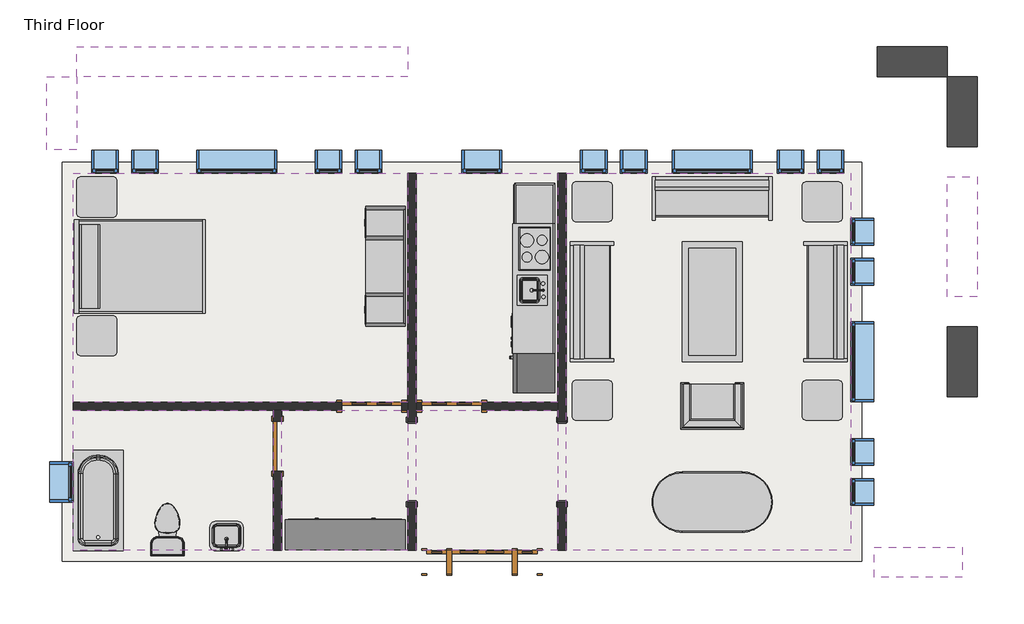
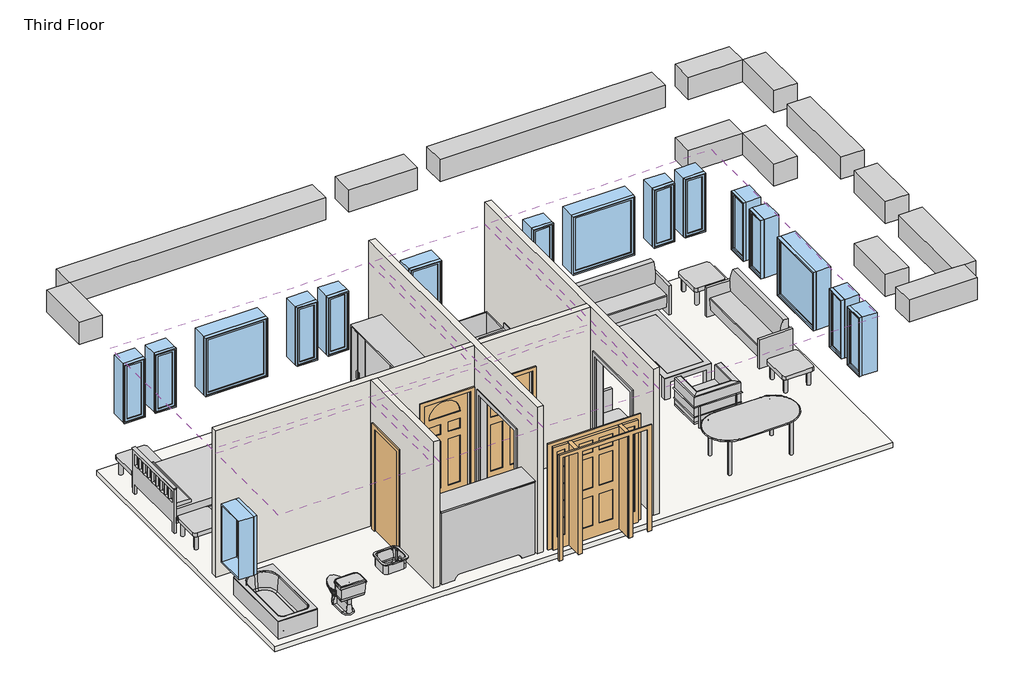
# One storey: 17 windows, 15 furniture elements, 7 beams, 6 coverings, 5 walls, 4 doors, 3 flow terminals, 3 proxies, 1 slab.
"""IFC4 building model written with IfcOpenShell, lengths in millimetres."""

from ifc_helpers import new_model, si_unit, frame, origin, place, context, project, spatial, polyline, outline, extrude, faceted_brep, transform, mapped, element, save
from components import proxy_64a468c4, proxy_f44482cc, door_829da954, door_2e3b4da2, door_4d6c7550, door_dba5aa2e, flow_terminal_0aeb31e3, toilet_domestic_3d_toilet_domestic_3d_f7549cf7, toilet_domestic_3d_toilet_domestic_3d_183bbd19, tub_rectangular_3d_tub_rectangular_3d_5e45a89b, furniture_096e7f55, chair_corbu_chair_corbu_2764bdef, furniture_7c473f12, furniture_ddc78764, furniture_4ef38d96, furniture_cd93a443, furniture_2c34a4f9, furniture_3a588284, furniture_1befe2a2, window_da97879f, window_d61ef850, window_60baf983, window_6eb97611

model = new_model("IFC4")

# Units and contexts
model_context = context("Model", 3, world=origin())
ifc_project = project(units=[si_unit("LENGTHUNIT", "METRE", prefix="MILLI")], contexts=[model_context])

# Site, building, storey
site = spatial("IfcSite", under=ifc_project)
building = spatial("IfcBuilding", under=site)
storey = spatial("IfcBuildingStorey", under=building, Name="Third Floor", Elevation=6096.0)

# Beams
placement = place(None, origin())
element("IfcBeam", 1, ObjectType="Concrete-Rectangular Beam : 18 x 18", at=placement, inside=storey, context=model_context, shape_type="Brep", body=[
    faceted_brep([(976.3410437, 4121.6316867, 9144.0), (976.3410437, 4578.8316867, 9144.0), (976.3410437, 4578.8316867, 8686.8), (976.3410437, 4121.6316867, 8686.8), (2322.5410437, 4121.6316867, 9144.0), (2322.5410437, 4578.8316867, 9144.0), (2093.9410437, 4578.8316867, 9144.0), (2322.5410437, 4578.8316867, 8686.8), (2093.9410437, 4578.8316867, 8686.8), (2322.5410437, 4121.6316867, 8686.8)], [[[0, 1, 2, 3]], [[1, 0, 4, 5, 6]], [[2, 1, 6, 5, 7, 8]], [[3, 2, 8, 7, 9]], [[0, 3, 9, 4]], [[4, 9, 7, 5]]]),
])
element("IfcBeam", 2, ObjectType="Concrete-Rectangular Beam : 18 x 18", at=placement, inside=storey, context=model_context, shape_type="SweptSolid", body=[
    extrude(outline(polyline([(1027.1410437, 11741.6316867), (1027.1410437, 12198.8316867), (2093.9410437, 12198.8316867), (2093.9410437, 11741.6316867), (1027.1410437, 11741.6316867)])), frame((0.0, 0.0, 7162.8), z_axis=(0.0, 0.0, 1.0), x_axis=(1.0, 0.0, 0.0)), (0.0, 0.0, 1.0), 457.2),
])
element("IfcBeam", 3, ObjectType="Concrete-Rectangular Beam : 18 x 18", at=placement, inside=storey, context=model_context, shape_type="SweptSolid", body=[
    extrude(outline(polyline([(2551.1410437, 10674.8316867), (2093.9410437, 10674.8316867), (2093.9410437, 11741.6316867), (2551.1410437, 11741.6316867), (2551.1410437, 10674.8316867)])), frame((0.0, 0.0, 7162.8), z_axis=(0.0, 0.0, 1.0), x_axis=(1.0, 0.0, 0.0)), (0.0, 0.0, 1.0), 457.2),
])
element("IfcBeam", 4, ObjectType="Concrete-Rectangular Beam : 18 x 18", at=placement, inside=storey, context=model_context, shape_type="SweptSolid", body=[
    extrude(outline(polyline([(2551.1410437, 6864.8316867), (2093.9410437, 6864.8316867), (2093.9410437, 7931.6316867), (2551.1410437, 7931.6316867), (2551.1410437, 6864.8316867)])), frame((0.0, 0.0, 7162.8), z_axis=(0.0, 0.0, 1.0), x_axis=(1.0, 0.0, 0.0)), (0.0, 0.0, 1.0), 457.2),
])
element("IfcBeam", 5, ObjectType="Concrete-Rectangular Beam : 18 x 18", at=placement, inside=storey, context=model_context, shape_type="SweptSolid", body=[
    extrude(outline(polyline([(2093.9410437, 12198.8316867), (2093.9410437, 11741.6316867), (1027.1410437, 11741.6316867), (1027.1410437, 12198.8316867), (2093.9410437, 12198.8316867)])), frame((0.0, 0.0, 8686.8), z_axis=(0.0, 0.0, 1.0), x_axis=(1.0, 0.0, 0.0)), (0.0, 0.0, 1.0), 457.2),
    extrude(outline(polyline([(-11164.8589563, 11741.6316867), (-11164.8589563, 12198.8316867), (-6122.9589563, 12198.8316867), (-6122.9589563, 11741.6316867), (-11164.8589563, 11741.6316867)])), frame((0.0, 0.0, 8686.8), z_axis=(0.0, 0.0, 1.0), x_axis=(1.0, 0.0, 0.0)), (0.0, 0.0, 1.0), 457.2),
    extrude(outline(polyline([(569.9410437, 12198.8316867), (569.9410437, 11741.6316867), (-3862.3589563, 11741.6316867), (-3862.3589563, 12198.8316867), (569.9410437, 12198.8316867)])), frame((0.0, 0.0, 8686.8), z_axis=(0.0, 0.0, 1.0), x_axis=(1.0, 0.0, 0.0)), (0.0, 0.0, 1.0), 457.2),
    extrude(outline(polyline([(-4319.5589563, 12198.8316867), (-4319.5589563, 11741.6316867), (-5665.7589563, 11741.6316867), (-5665.7589563, 12198.8316867), (-4319.5589563, 12198.8316867)])), frame((0.0, 0.0, 8686.8), z_axis=(0.0, 0.0, 1.0), x_axis=(1.0, 0.0, 0.0)), (0.0, 0.0, 1.0), 457.2),
])
element("IfcBeam", 6, ObjectType="Concrete-Rectangular Beam : 18 x 18", at=placement, inside=storey, context=model_context, shape_type="Brep", body=[
    faceted_brep([(2093.9410437, 4578.8316867, 9144.0), (2322.5410437, 4578.8316867, 9144.0), (2551.1410437, 4578.8316867, 9144.0), (2551.1410437, 6407.6316867, 9144.0), (2093.9410437, 6407.6316867, 9144.0), (2093.9410437, 4578.8316867, 8686.8), (2093.9410437, 6407.6316867, 8686.8), (2551.1410437, 4578.8316867, 8686.8), (2322.5410437, 4578.8316867, 8686.8), (2551.1410437, 6407.6316867, 8686.8)], [[[0, 1, 2, 3, 4]], [[5, 0, 4, 6]], [[7, 8, 5, 6, 9]], [[2, 7, 9, 3]], [[2, 1, 0, 5, 8, 7]], [[4, 3, 9, 6]]]),
    faceted_brep([(2551.1410437, 11741.6316867, 9144.0), (2551.1410437, 11741.6316867, 8686.8), (2093.9410437, 11741.6316867, 8686.8), (2093.9410437, 11741.6316867, 9144.0), (2551.1410437, 10674.8316867, 9144.0), (2093.9410437, 10674.8316867, 9144.0), (2093.9410437, 10674.8316867, 8686.8), (2551.1410437, 10674.8316867, 8686.8)], [[[0, 1, 2, 3]], [[4, 5, 6, 7]], [[0, 3, 5, 4]], [[3, 2, 6, 5]], [[2, 1, 7, 6]], [[1, 0, 4, 7]]]),
    faceted_brep([(2093.9410437, 10217.6316867, 9144.0), (2551.1410437, 10217.6316867, 9144.0), (2551.1410437, 10217.6316867, 8686.8), (2093.9410437, 10217.6316867, 8686.8), (2551.1410437, 8388.8316867, 9144.0), (2093.9410437, 8388.8316867, 9144.0), (2093.9410437, 8388.8316867, 8686.8), (2551.1410437, 8388.8316867, 8686.8)], [[[0, 1, 2, 3]], [[4, 5, 6, 7]], [[1, 0, 5, 4]], [[0, 3, 6, 5]], [[3, 2, 7, 6]], [[2, 1, 4, 7]]]),
    faceted_brep([(2551.1410437, 6864.8316867, 9144.0), (2093.9410437, 6864.8316867, 9144.0), (2093.9410437, 6864.8316867, 8686.8), (2551.1410437, 6864.8316867, 8686.8), (2551.1410437, 7931.6316867, 9144.0), (2093.9410437, 7931.6316867, 9144.0), (2093.9410437, 7931.6316867, 8686.8), (2551.1410437, 7931.6316867, 8686.8)], [[[0, 1, 2, 3]], [[1, 0, 4, 5]], [[2, 1, 5, 6]], [[3, 2, 6, 7]], [[0, 3, 7, 4]], [[5, 4, 7, 6]]]),
])
element("IfcBeam", 7, ObjectType="Concrete-Rectangular Beam : 18 x 18", at=placement, inside=storey, context=model_context, shape_type="SweptSolid", body=[
    extrude(outline(polyline([(-11164.8589563, 10624.0316867), (-11622.0589563, 10624.0316867), (-11622.0589563, 11741.6316867), (-11164.8589563, 11741.6316867), (-11164.8589563, 10624.0316867)])), frame((0.0, 0.0, 8686.8), z_axis=(0.0, 0.0, 1.0), x_axis=(1.0, 0.0, 0.0)), (0.0, 0.0, 1.0), 457.2),
])

# Proxies
proxy_shape = proxy_64a468c4(model_context)
element("IfcBuildingElementProxy", 8, Name="Kitchenette - Medium : 8'6\"", ObjectType="Kitchenette - Medium : 8'6\"", at=placement, inside=storey, context=model_context, shape_type="MappedRepresentation", body=[
    mapped(proxy_shape, transform((-3887.7589563, 8837.7956433, 6096.0), x_axis=(0.0, -1.0, 0.0), y_axis=(1.0, 0.0, 0.0), z_axis=(0.0, 0.0, 1.0))),
])
proxy_2_shape = proxy_f44482cc(model_context)
element("IfcBuildingElementProxy", 9, Name="Opening-Cased : 48\" x 84\"", ObjectType="Opening-Cased : 48\" x 84\"", at=placement, inside=storey, context=model_context, shape_type="MappedRepresentation", body=[
    mapped(proxy_2_shape, transform((-3773.4589563, 5882.4203434, 6096.0), x_axis=(0.0, 1.0, 0.0), y_axis=(-1.0, 0.0, 0.0), z_axis=(0.0, 0.0, 1.0))),
])
element("IfcBuildingElementProxy", 10, Name="Opening-Cased : 48\" x 84\"", ObjectType="Opening-Cased : 48\" x 84\"", at=placement, inside=storey, context=model_context, shape_type="MappedRepresentation", body=[
    mapped(proxy_2_shape, transform((-6059.4589563, 5866.04303, 6096.0), x_axis=(0.0, -1.0, 0.0), y_axis=(1.0, 0.0, 0.0), z_axis=(0.0, 0.0, 1.0))),
])

# Coverings
element("IfcCovering", 11, ObjectType="GWB on Mtl. Stud", at=placement, inside=storey, context=model_context, shape_type="SweptSolid", body=[
    extrude(outline(polyline([(-11217.2464563, 10270.0191867), (-6122.9589563, 10270.0191867), (-6122.9589563, 6787.0441867), (-11217.2464563, 6787.0441867), (-11217.2464563, 10270.0191867)])), frame((0.0, 0.0, 8686.8), z_axis=(0.0, 0.0, 1.0), x_axis=(1.0, 0.0, 0.0)), (0.0, 0.0, 1.0), 107.95),
])
element("IfcCovering", 12, ObjectType="GWB on Mtl. Stud", at=placement, inside=storey, context=model_context, shape_type="SweptSolid", body=[
    extrude(outline(polyline([(-5995.9589563, 6787.0441867), (-5995.9589563, 10270.0191867), (-3836.9589563, 10270.0191867), (-3836.9589563, 6787.0441867), (-5995.9589563, 6787.0441867)])), frame((0.0, 0.0, 8686.8), z_axis=(0.0, 0.0, 1.0), x_axis=(1.0, 0.0, 0.0)), (0.0, 0.0, 1.0), 107.95),
])
element("IfcCovering", 13, ObjectType="GWB on Mtl. Stud", at=placement, inside=storey, context=model_context, shape_type="SweptSolid", body=[
    extrude(outline(polyline([(-3709.9589563, 4526.4441867), (-3709.9589563, 10270.0191867), (622.3285437, 10270.0191867), (622.3285437, 4526.4441867), (-3709.9589563, 4526.4441867)])), frame((0.0, 0.0, 8686.8), z_axis=(0.0, 0.0, 1.0), x_axis=(1.0, 0.0, 0.0)), (0.0, 0.0, 1.0), 107.95),
])
element("IfcCovering", 14, ObjectType="GWB on Mtl. Stud", at=placement, inside=storey, context=model_context, shape_type="SweptSolid", body=[
    extrude(outline(polyline([(-3836.9589563, 4526.4441867), (-5995.9589563, 4526.4441867), (-5995.9589563, 6660.0441867), (-3836.9589563, 6660.0441867), (-3836.9589563, 4526.4441867)])), frame((0.0, 0.0, 8686.8), z_axis=(0.0, 0.0, 1.0), x_axis=(1.0, 0.0, 0.0)), (0.0, 0.0, 1.0), 107.95),
])
element("IfcCovering", 15, ObjectType="GWB on Mtl. Stud", at=placement, inside=storey, context=model_context, shape_type="SweptSolid", body=[
    extrude(outline(polyline([(-6122.9589563, 4526.4441867), (-8042.2464563, 4526.4441867), (-8042.2464563, 6660.0441867), (-6122.9589563, 6660.0441867), (-6122.9589563, 4526.4441867)])), frame((0.0, 0.0, 8686.8), z_axis=(0.0, 0.0, 1.0), x_axis=(1.0, 0.0, 0.0)), (0.0, 0.0, 1.0), 107.95),
])
element("IfcCovering", 16, ObjectType="GWB on Mtl. Stud", at=placement, inside=storey, context=model_context, shape_type="SweptSolid", body=[
    extrude(outline(polyline([(-8169.2464563, 6660.0441867), (-8169.2464563, 4526.4441867), (-11217.2464563, 4526.4441867), (-11217.2464563, 6660.0441867), (-8169.2464563, 6660.0441867)])), frame((0.0, 0.0, 8686.8), z_axis=(0.0, 0.0, 1.0), x_axis=(1.0, 0.0, 0.0)), (0.0, 0.0, 1.0), 107.95),
])

# Doors
door_shape = door_829da954(model_context)
element("IfcDoor", 17, ObjectType="Single-Decorative 2 : 36\" x 84\"", at=placement, inside=storey, context=model_context, shape_type="MappedRepresentation", body=[
    mapped(door_shape, transform((-5449.8589563, 6723.5441867, 6096.0), x_axis=(-1.0, 0.0, 0.0), y_axis=(0.0, -1.0, 0.0), z_axis=(0.0, 0.0, 1.0))),
])
door_2_shape = door_2e3b4da2(model_context)
element("IfcDoor", 18, ObjectType="Single-Decorative 2 : 36\" x 84\"", at=placement, inside=storey, context=model_context, shape_type="MappedRepresentation", body=[
    mapped(door_2_shape, transform((-6669.0589563, 6723.5441867, 6096.0), x_axis=(1.0, 0.0, 0.0), y_axis=(0.0, 1.0, 0.0), z_axis=(0.0, 0.0, 1.0))),
])
door_3_shape = door_4d6c7550(model_context)
element("IfcDoor", 19, ObjectType="Single-Flush : 30\" x 84\"", at=placement, inside=storey, context=model_context, shape_type="MappedRepresentation", body=[
    mapped(door_3_shape, transform((-8105.7464563, 6113.9441867, 6096.0), x_axis=(0.0, 1.0, 0.0), y_axis=(-1.0, 0.0, 0.0), z_axis=(0.0, 0.0, 1.0))),
])
door_4_shape = door_dba5aa2e(model_context)
element("IfcDoor", 20, ObjectType="Single-Raised Panel with Sidelights : 36\" x 84\"", at=placement, inside=storey, context=model_context, shape_type="MappedRepresentation", body=[
    mapped(door_4_shape, transform((-4992.6589563, 4350.2316867, 6096.0), x_axis=(-1.0, 0.0, 0.0), y_axis=(0.0, -1.0, 0.0), z_axis=(0.0, 0.0, 1.0))),
])

# Flow terminals
flow_terminal_shape = flow_terminal_0aeb31e3(model_context)
element("IfcFlowTerminal", 21, ObjectType="Sink Vanity-Square : 24\" x 19\"", at=placement, inside=storey, context=model_context, shape_type="MappedRepresentation", body=[
    mapped(flow_terminal_shape, transform((-8864.7572157, 4706.5895878, 6096.0), x_axis=(-1.0, 0.0, 0.0), y_axis=(0.0, -1.0, 0.0), z_axis=(0.0, 0.0, 1.0))),
])
toilet_domestic_3d_toilet_domestic_3d_shape = toilet_domestic_3d_toilet_domestic_3d_f7549cf7(model_context)
toilet_domestic_3d_toilet_domestic_3d_2_shape = toilet_domestic_3d_toilet_domestic_3d_183bbd19(model_context)
element("IfcFlowTerminal", 22, ObjectType="Toilet-Domestic-3D : Toilet-Domestic-3D", at=placement, inside=storey, context=model_context, shape_type="MappedRepresentation", body=[
    mapped(toilet_domestic_3d_toilet_domestic_3d_shape, transform((-9782.1466587, 4940.866411, 6096.0), x_axis=(-1.0000000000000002, 0.0, 0.0), y_axis=(0.0, -1.0000000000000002, 0.0), z_axis=(0.0, 0.0, 1.0))),
    mapped(toilet_domestic_3d_toilet_domestic_3d_2_shape, transform((-9782.1466587, 4940.866411, 6096.0), x_axis=(-1.0000000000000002, 0.0, 0.0), y_axis=(0.0, -1.0000000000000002, 0.0), z_axis=(0.0, 0.0, 1.0))),
])
tub_rectangular_3d_tub_rectangular_3d_shape = tub_rectangular_3d_tub_rectangular_3d_5e45a89b(model_context)
element("IfcFlowTerminal", 23, ObjectType="Tub-Rectangular-3D : Tub-Rectangular-3D", at=placement, inside=storey, context=model_context, shape_type="MappedRepresentation", body=[
    mapped(tub_rectangular_3d_tub_rectangular_3d_shape, transform((-11393.4589563, 5637.0471554, 6096.0), x_axis=(0.0, 1.0, 0.0), y_axis=(-1.0, 0.0, 0.0), z_axis=(0.0, 0.0, 1.0))),
])

# Furniture
furniture_shape = furniture_096e7f55(model_context)
element("IfcFurniture", 24, ObjectType="Bed-Shaker : Double 56\" x 78\"", at=placement, inside=storey, context=model_context, shape_type="MappedRepresentation", body=[
    mapped(furniture_shape, transform((-11183.1982802, 8871.8755561, 6096.0), x_axis=(0.0, 1.0, 0.0), y_axis=(-1.0, 0.0, 0.0), z_axis=(0.0, 0.0, 1.0))),
])
chair_corbu_chair_corbu_shape = chair_corbu_chair_corbu_2764bdef(model_context)
element("IfcFurniture", 25, ObjectType="Chair-Corbu : Chair-Corbu", at=placement, inside=storey, context=model_context, shape_type="MappedRepresentation", body=[
    mapped(chair_corbu_chair_corbu_shape, transform((-914.0851858, 7193.4962359, 6096.0), x_axis=(-1.0, 0.0, 0.0), y_axis=(0.0, -1.0, 0.0), z_axis=(0.0, 0.0, 1.0))),
])
furniture_2_shape = furniture_7c473f12(model_context)
element("IfcFurniture", 26, ObjectType="Dresser : 72\" x 60\" x 18\"", at=placement, inside=storey, context=model_context, shape_type="MappedRepresentation", body=[
    mapped(furniture_2_shape, transform((-7344.6522161, 4404.5812326, 6096.0), x_axis=(-1.0, 0.0, 0.0), y_axis=(0.0, -1.0, 0.0), z_axis=(0.0, 0.0, 1.0))),
])
furniture_3_shape = furniture_ddc78764(model_context)
element("IfcFurniture", 27, ObjectType="Entertainment Center : 72\" x 72\" x 24\"", at=placement, inside=storey, context=model_context, shape_type="MappedRepresentation", body=[
    mapped(furniture_3_shape, transform((-6059.4589563, 8852.8255561, 6096.0), x_axis=(0.0, -1.0, 0.0), y_axis=(1.0, 0.0, 0.0), z_axis=(0.0, 0.0, 1.0))),
])
furniture_4_shape = furniture_4ef38d96(model_context)
element("IfcFurniture", 28, ObjectType="Sofa : 72\"", at=placement, inside=storey, context=model_context, shape_type="MappedRepresentation", body=[
    mapped(furniture_4_shape, transform((-1557.8294481, 9741.2775883, 6096.0), x_axis=(1.0, 0.0, 0.0), y_axis=(0.0, 1.0, 0.0), z_axis=(0.0, 0.0, 1.0))),
])
element("IfcFurniture", 29, ObjectType="Sofa : 72\"", at=placement, inside=storey, context=model_context, shape_type="MappedRepresentation", body=[
    mapped(furniture_4_shape, transform((93.5869453, 8383.0021785, 6096.0), x_axis=(0.0, -1.0, 0.0), y_axis=(1.0, 0.0, 0.0), z_axis=(0.0, 0.0, 1.0))),
])
element("IfcFurniture", 30, ObjectType="Sofa : 72\"", at=placement, inside=storey, context=model_context, shape_type="MappedRepresentation", body=[
    mapped(furniture_4_shape, transform((-3170.104858, 8242.2611949, 6096.0), x_axis=(0.0, 1.0, 0.0), y_axis=(-1.0, 0.0, 0.0), z_axis=(0.0, 0.0, 1.0))),
])
furniture_5_shape = furniture_cd93a443(model_context)
element("IfcFurniture", 31, ObjectType="Table-Coffee : 36\" x 72\" x 18\"", at=placement, inside=storey, context=model_context, shape_type="MappedRepresentation", body=[
    mapped(furniture_5_shape, transform((-1582.6700341, 8330.8974534, 6096.0), x_axis=(0.0, -1.0, 0.0), y_axis=(1.0, 0.0, 0.0), z_axis=(0.0, 0.0, 1.0))),
])
furniture_6_shape = furniture_2c34a4f9(model_context)
element("IfcFurniture", 32, ObjectType="Table-Dining Oval : 36\" x 72\"", at=placement, inside=storey, context=model_context, shape_type="MappedRepresentation", body=[
    mapped(furniture_6_shape, transform((-1085.6392842, 5622.7300473, 6096.0), x_axis=(1.0, 0.0, 0.0), y_axis=(0.0, 1.0, 0.0), z_axis=(0.0, 0.0, 1.0))),
])
furniture_7_shape = furniture_3a588284(model_context)
element("IfcFurniture", 33, ObjectType="Table-End : 24\" x 24\"", at=placement, inside=storey, context=model_context, shape_type="MappedRepresentation", body=[
    mapped(furniture_7_shape, transform((-119.5925866, 9684.2316867, 6096.0), x_axis=(1.0, 0.0, 0.0), y_axis=(0.0, 1.0, 0.0), z_axis=(0.0, 0.0, 1.0))),
])
element("IfcFurniture", 34, ObjectType="Table-End : 24\" x 24\"", at=placement, inside=storey, context=model_context, shape_type="MappedRepresentation", body=[
    mapped(furniture_7_shape, transform((-3624.7925866, 9684.2316867, 6096.0), x_axis=(1.0, 0.0, 0.0), y_axis=(0.0, 1.0, 0.0), z_axis=(0.0, 0.0, 1.0))),
])
element("IfcFurniture", 35, ObjectType="Table-End : 24\" x 24\"", at=placement, inside=storey, context=model_context, shape_type="MappedRepresentation", body=[
    mapped(furniture_7_shape, transform((-3624.7925866, 6660.0441867, 6096.0), x_axis=(1.0, 0.0, 0.0), y_axis=(0.0, 1.0, 0.0), z_axis=(0.0, 0.0, 1.0))),
])
element("IfcFurniture", 36, ObjectType="Table-End : 24\" x 24\"", at=placement, inside=storey, context=model_context, shape_type="MappedRepresentation", body=[
    mapped(furniture_7_shape, transform((-119.5925866, 6660.0441867, 6096.0), x_axis=(1.0, 0.0, 0.0), y_axis=(0.0, 1.0, 0.0), z_axis=(0.0, 0.0, 1.0))),
])
element("IfcFurniture", 37, ObjectType="Table-End : 24\" x 24\"", at=placement, inside=storey, context=model_context, shape_type="MappedRepresentation", body=[
    mapped(furniture_7_shape, transform((-11164.2346356, 9756.0737357, 6096.0), x_axis=(1.0, 0.0, 0.0), y_axis=(0.0, 1.0, 0.0), z_axis=(0.0, 0.0, 1.0))),
])
furniture_8_shape = furniture_1befe2a2(model_context)
element("IfcFurniture", 38, ObjectType="Table-End : 24\" x 24\"", at=placement, inside=storey, context=model_context, shape_type="MappedRepresentation", body=[
    mapped(furniture_8_shape, transform((-11164.2346356, 7949.5773764, 6096.0), x_axis=(1.0, 0.0, 0.0), y_axis=(0.0, 1.0, 0.0), z_axis=(0.0, 0.0, 1.0))),
])

# Slab
element("IfcSlab", 39, ObjectType="LW Concrete on Metal Deck", at=placement, inside=storey, context=model_context, shape_type="SweptSolid", body=[
    extrude(outline(polyline([(787.4285437, 10435.1191867), (787.4285437, 4361.3441867), (-11382.3464563, 4361.3441867), (-11382.3464563, 10435.1191867), (787.4285437, 10435.1191867)])), frame((0.0, 0.0, 5991.225), z_axis=(0.0, 0.0, 1.0), x_axis=(1.0, 0.0, 0.0)), (0.0, 0.0, 1.0), 104.775),
])

# Walls
element("IfcWall", 40, ObjectType="Interior - 5\" Partition (2-hr)", at=placement, inside=storey, context=model_context, shape_type="Brep", body=[
    faceted_brep([(-3709.9589563, 10270.0191867, 6096.0), (-3709.9589563, 6483.8316867, 6096.0), (-3836.9589563, 6483.8316867, 6096.0), (-3836.9589563, 6660.0441867, 6096.0), (-3836.9589563, 6787.0441867, 6096.0), (-3836.9589563, 10270.0191867, 6096.0), (-3709.9589563, 5264.6316867, 6096.0), (-3709.9589563, 4526.4441867, 6096.0), (-3836.9589563, 4526.4441867, 6096.0), (-3836.9589563, 5264.6316867, 6096.0), (-3836.9589563, 10270.0191867, 9144.0), (-3836.9589563, 6787.0441867, 9144.0), (-3836.9589563, 6660.0441867, 9144.0), (-3836.9589563, 4526.4441867, 9144.0), (-3709.9589563, 4526.4441867, 9144.0), (-3709.9589563, 10270.0191867, 9144.0), (-3836.9589563, 6483.8316867, 8229.6), (-3836.9589563, 5264.6316867, 8229.6), (-3709.9589563, 6483.8316867, 8229.6), (-3709.9589563, 5264.6316867, 8229.6)], [[[0, 1, 2, 3, 4, 5]], [[6, 7, 8, 9]], [[10, 11, 12, 13, 14, 15]], [[5, 4, 3, 2, 16, 17, 9, 8, 13, 12, 11, 10]], [[18, 1, 0, 15, 14, 7, 6, 19]], [[5, 10, 15, 0]], [[13, 8, 7, 14]], [[9, 17, 19, 6]], [[16, 2, 1, 18]], [[17, 16, 18, 19]]]),
])
element("IfcWall", 41, ObjectType="Interior - 5\" Partition (2-hr)", at=placement, inside=storey, context=model_context, shape_type="Brep", body=[
    faceted_brep([(-6122.9589563, 4526.4441867, 6096.0), (-6122.9589563, 5264.6316867, 6096.0), (-5995.9589563, 5264.6316867, 6096.0), (-5995.9589563, 4526.4441867, 6096.0), (-6122.9589563, 6483.8316867, 6096.0), (-6122.9589563, 6660.0441867, 6096.0), (-6122.9589563, 6787.0441867, 6096.0), (-6122.9589563, 10270.0191867, 6096.0), (-5995.9589563, 10270.0191867, 6096.0), (-5995.9589563, 6787.0441867, 6096.0), (-5995.9589563, 6660.0441867, 6096.0), (-5995.9589563, 6483.8316867, 6096.0), (-6122.9589563, 10270.0191867, 9144.0), (-6122.9589563, 6787.0441867, 9144.0), (-6122.9589563, 6660.0441867, 9144.0), (-6122.9589563, 4526.4441867, 9144.0), (-5995.9589563, 4526.4441867, 9144.0), (-5995.9589563, 6660.0441867, 9144.0), (-5995.9589563, 6787.0441867, 9144.0), (-5995.9589563, 10270.0191867, 9144.0), (-6122.9589563, 5264.6316867, 8229.6), (-6122.9589563, 6483.8316867, 8229.6), (-5995.9589563, 5264.6316867, 8229.6), (-5995.9589563, 6483.8316867, 8229.6)], [[[0, 1, 2, 3]], [[4, 5, 6, 7, 8, 9, 10, 11]], [[12, 13, 14, 15, 16, 17, 18, 19]], [[20, 1, 0, 15, 14, 13, 12, 7, 6, 5, 4, 21]], [[3, 2, 22, 23, 11, 10, 9, 8, 19, 18, 17, 16]], [[7, 12, 19, 8]], [[15, 0, 3, 16]], [[11, 23, 21, 4]], [[22, 2, 1, 20]], [[23, 22, 20, 21]]]),
])
element("IfcWall", 42, ObjectType="Interior - 5\" Partition (2-hr)", at=placement, inside=storey, context=model_context, shape_type="Brep", body=[
    faceted_brep([(-6122.9589563, 6660.0441867, 6096.0), (-6211.8589563, 6660.0441867, 6096.0), (-6211.8589563, 6787.0441867, 6096.0), (-6122.9589563, 6787.0441867, 6096.0), (-7126.2589563, 6660.0441867, 6096.0), (-8042.2464563, 6660.0441867, 6096.0), (-8169.2464563, 6660.0441867, 6096.0), (-11217.2464563, 6660.0441867, 6096.0), (-11217.2464563, 6787.0441867, 6096.0), (-7126.2589563, 6787.0441867, 6096.0), (-11217.2464563, 6660.0441867, 9144.0), (-8169.2464563, 6660.0441867, 9144.0), (-8042.2464563, 6660.0441867, 9144.0), (-6122.9589563, 6660.0441867, 9144.0), (-6122.9589563, 6787.0441867, 9144.0), (-11217.2464563, 6787.0441867, 9144.0), (-6211.8589563, 6660.0441867, 8229.6), (-7126.2589563, 6660.0441867, 8229.6), (-6211.8589563, 6787.0441867, 8229.6), (-7126.2589563, 6787.0441867, 8229.6)], [[[0, 1, 2, 3]], [[4, 5, 6, 7, 8, 9]], [[10, 11, 12, 13, 14, 15]], [[16, 1, 0, 13, 12, 11, 10, 7, 6, 5, 4, 17]], [[3, 2, 18, 19, 9, 8, 15, 14]], [[13, 0, 3, 14]], [[7, 10, 15, 8]], [[18, 2, 1, 16]], [[19, 18, 16, 17]], [[9, 19, 17, 4]]]),
])
element("IfcWall", 43, ObjectType="Interior - 5\" Partition (2-hr)", at=placement, inside=storey, context=model_context, shape_type="SweptSolid", body=[
    extrude(outline(polyline([(6660.0441867, 6096.0), (6494.9441867, 6096.0), (6494.9441867, 8229.6), (5732.9441867, 8229.6), (5732.9441867, 6096.0), (4526.4441867, 6096.0), (4526.4441867, 9144.0), (6660.0441867, 9144.0), (6660.0441867, 6096.0)])), frame((-8169.2464563, 0.0, 0.0), z_axis=(1.0, 0.0, 0.0), x_axis=(0.0, 1.0, 0.0)), (0.0, 0.0, 1.0), 127.0),
])
element("IfcWall", 44, ObjectType="Interior - 5\" Partition (2-hr)", at=placement, inside=storey, context=model_context, shape_type="SweptSolid", body=[
    extrude(outline(polyline([(6096.0, -5995.9589563), (6096.0, -5907.0589563), (8229.6, -5907.0589563), (8229.6, -4992.6589563), (6096.0, -4992.6589563), (6096.0, -3836.9589563), (9144.0, -3836.9589563), (9144.0, -5995.9589563), (6096.0, -5995.9589563)])), frame((0.0, 6660.0441867, 0.0), z_axis=(0.0, 1.0, 0.0), x_axis=(0.0, 0.0, 1.0)), (0.0, 0.0, 1.0), 127.0),
])

# Windows
window_shape = window_da97879f(model_context)
element("IfcWindow", 45, ObjectType="Fixed : 16\" x 48\"", at=placement, inside=storey, context=model_context, shape_type="MappedRepresentation", body=[
    mapped(window_shape, transform((-10771.1589563, 10446.2316867, 6096.0), x_axis=(-1.0, 0.0, 0.0), y_axis=(0.0, -1.0, 0.0), z_axis=(0.0, 0.0, 1.0))),
])
element("IfcWindow", 46, ObjectType="Fixed : 16\" x 48\"", at=placement, inside=storey, context=model_context, shape_type="MappedRepresentation", body=[
    mapped(window_shape, transform((-10161.5589563, 10446.2316867, 6096.0), x_axis=(-1.0, 0.0, 0.0), y_axis=(0.0, -1.0, 0.0), z_axis=(0.0, 0.0, 1.0))),
])
element("IfcWindow", 47, ObjectType="Fixed : 16\" x 48\"", at=placement, inside=storey, context=model_context, shape_type="MappedRepresentation", body=[
    mapped(window_shape, transform((-3328.9589563, 10446.2316867, 6096.0), x_axis=(-1.0, 0.0, 0.0), y_axis=(0.0, -1.0, 0.0), z_axis=(0.0, 0.0, 1.0))),
])
element("IfcWindow", 48, ObjectType="Fixed : 16\" x 48\"", at=placement, inside=storey, context=model_context, shape_type="MappedRepresentation", body=[
    mapped(window_shape, transform((-2719.3589563, 10446.2316867, 6096.0), x_axis=(-1.0, 0.0, 0.0), y_axis=(0.0, -1.0, 0.0), z_axis=(0.0, 0.0, 1.0))),
])
element("IfcWindow", 49, ObjectType="Fixed : 16\" x 48\"", at=placement, inside=storey, context=model_context, shape_type="MappedRepresentation", body=[
    mapped(window_shape, transform((798.5410437, 9417.5316867, 6096.0), x_axis=(0.0, 1.0, 0.0), y_axis=(-1.0, 0.0, 0.0), z_axis=(0.0, 0.0, 1.0))),
])
element("IfcWindow", 50, ObjectType="Fixed : 16\" x 48\"", at=placement, inside=storey, context=model_context, shape_type="MappedRepresentation", body=[
    mapped(window_shape, transform((798.5410437, 8807.9316867, 6096.0), x_axis=(0.0, 1.0, 0.0), y_axis=(-1.0, 0.0, 0.0), z_axis=(0.0, 0.0, 1.0))),
])
window_2_shape = window_d61ef850(model_context)
element("IfcWindow", 51, ObjectType="Fixed : 16\" x 48\"", at=placement, inside=storey, context=model_context, shape_type="MappedRepresentation", body=[
    mapped(window_2_shape, transform((-6681.7589563, 10446.2316867, 6096.0), x_axis=(1.0, 0.0, 0.0), y_axis=(0.0, 1.0, 0.0), z_axis=(0.0, 0.0, 1.0))),
])
element("IfcWindow", 52, ObjectType="Fixed : 16\" x 48\"", at=placement, inside=storey, context=model_context, shape_type="MappedRepresentation", body=[
    mapped(window_2_shape, transform((-7291.3589563, 10446.2316867, 6096.0), x_axis=(1.0, 0.0, 0.0), y_axis=(0.0, 1.0, 0.0), z_axis=(0.0, 0.0, 1.0))),
])
element("IfcWindow", 53, ObjectType="Fixed : 16\" x 48\"", at=placement, inside=storey, context=model_context, shape_type="MappedRepresentation", body=[
    mapped(window_2_shape, transform((354.0410437, 10446.2316867, 6096.0), x_axis=(1.0, 0.0, 0.0), y_axis=(0.0, 1.0, 0.0), z_axis=(0.0, 0.0, 1.0))),
])
element("IfcWindow", 54, ObjectType="Fixed : 16\" x 48\"", at=placement, inside=storey, context=model_context, shape_type="MappedRepresentation", body=[
    mapped(window_2_shape, transform((-255.5589563, 10446.2316867, 6096.0), x_axis=(1.0, 0.0, 0.0), y_axis=(0.0, 1.0, 0.0), z_axis=(0.0, 0.0, 1.0))),
])
element("IfcWindow", 55, ObjectType="Fixed : 16\" x 48\"", at=placement, inside=storey, context=model_context, shape_type="MappedRepresentation", body=[
    mapped(window_2_shape, transform((798.5410437, 5378.9316867, 6096.0), x_axis=(0.0, -1.0, 0.0), y_axis=(1.0, 0.0, 0.0), z_axis=(0.0, 0.0, 1.0))),
])
element("IfcWindow", 56, ObjectType="Fixed : 16\" x 48\"", at=placement, inside=storey, context=model_context, shape_type="MappedRepresentation", body=[
    mapped(window_2_shape, transform((798.5410437, 5988.5316867, 6096.0), x_axis=(0.0, -1.0, 0.0), y_axis=(1.0, 0.0, 0.0), z_axis=(0.0, 0.0, 1.0))),
])
window_3_shape = window_60baf983(model_context)
element("IfcWindow", 57, ObjectType="Fixed : 24\" x 48\"", at=placement, inside=storey, context=model_context, shape_type="MappedRepresentation", body=[
    mapped(window_3_shape, transform((-5030.7589563, 10446.2316867, 6096.0), x_axis=(-1.0, 0.0, 0.0), y_axis=(0.0, -1.0, 0.0), z_axis=(0.0, 0.0, 1.0))),
])
element("IfcWindow", 58, ObjectType="Fixed : 24\" x 48\"", at=placement, inside=storey, context=model_context, shape_type="MappedRepresentation", body=[
    mapped(window_3_shape, transform((-11393.4589563, 5531.3316867, 6096.0), x_axis=(0.0, -1.0, 0.0), y_axis=(1.0, 0.0, 0.0), z_axis=(0.0, 0.0, 1.0))),
])
window_4_shape = window_6eb97611(model_context)
element("IfcWindow", 59, ObjectType="Fixed : 48\" x 48\"", at=placement, inside=storey, context=model_context, shape_type="MappedRepresentation", body=[
    mapped(window_4_shape, transform((-8764.5589563, 10446.2316867, 6096.0), x_axis=(-1.0, 0.0, 0.0), y_axis=(0.0, -1.0, 0.0), z_axis=(0.0, 0.0, 1.0))),
])
element("IfcWindow", 60, ObjectType="Fixed : 48\" x 48\"", at=placement, inside=storey, context=model_context, shape_type="MappedRepresentation", body=[
    mapped(window_4_shape, transform((-1525.5589563, 10446.2316867, 6096.0), x_axis=(-1.0, 0.0, 0.0), y_axis=(0.0, -1.0, 0.0), z_axis=(0.0, 0.0, 1.0))),
])
element("IfcWindow", 61, ObjectType="Fixed : 48\" x 48\"", at=placement, inside=storey, context=model_context, shape_type="MappedRepresentation", body=[
    mapped(window_4_shape, transform((798.5410437, 7436.3316867, 6096.0), x_axis=(0.0, 1.0, 0.0), y_axis=(-1.0, 0.0, 0.0), z_axis=(0.0, 0.0, 1.0))),
])

save(model, "model.ifc")
